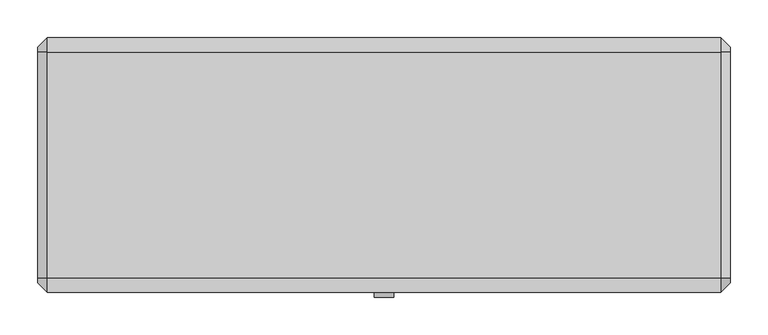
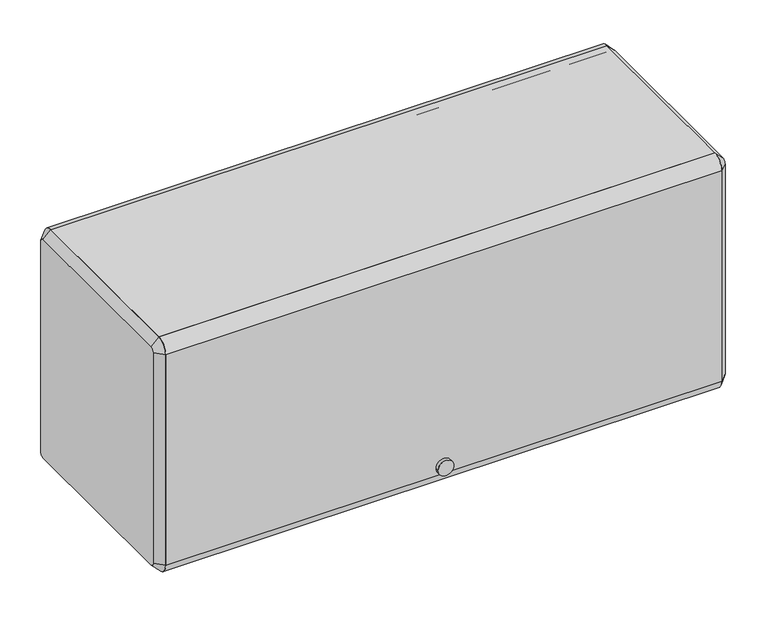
"""IFC4 building model written with IfcOpenShell, lengths in millimetres: furniture geometry."""

from ifc_helpers import new_model, si_unit, point, frame, frame_2d, origin, place, context, project, spatial, polyline, circle_curve, trimmed, segment, composite_curve, outline, extrude, source, transform, mapped, element, save
from ifc_brep_helpers import plane_surface, revolved_surface, advanced_brep


def furniture_bd327418(model_context):
    return source(origin(), model_context, "Body", "SolidModel", [
        extrude(outline(composite_curve([segment(polyline([(-136.525, 1689.1), (-136.525, 1701.8), (161.925, 1701.8)]), True, "CONTINUOUS"), segment(trimmed(circle_curve(frame_2d((161.925, 1682.75)), 19.05), [point((161.925, 1701.8))], [point((180.975, 1682.75))], False, "CARTESIAN"), True, "CONTINUOUS"), segment(polyline([(180.975, 1682.75), (168.275, 1682.75)]), True, "CONTINUOUS"), segment(trimmed(circle_curve(frame_2d((161.925, 1682.75)), 6.35), [point((168.275, 1682.75))], [point((161.925, 1689.1))], True, "CARTESIAN"), True, "CONTINUOUS"), segment(polyline([(161.925, 1689.1), (-136.525, 1689.1)]), True, "CONTINUOUS")], self_intersect=False)), frame((-444.5, 0.0, 0.0), z_axis=(1.0, 0.0, 0.0), x_axis=(0.0, 1.0, 0.0)), (0.0, 0.0, 1.0), 889.0),
        extrude(outline(composite_curve([segment(trimmed(circle_curve(frame_2d((-136.525, 1682.75)), 19.05), [point((-155.575, 1682.75))], [point((-136.525, 1701.8))], False, "CARTESIAN"), True, "CONTINUOUS"), segment(polyline([(-136.525, 1701.8), (-136.525, 1689.1)]), True, "CONTINUOUS"), segment(trimmed(circle_curve(frame_2d((-136.525, 1682.75)), 6.35), [point((-136.525, 1689.1))], [point((-142.875, 1682.75))], True, "CARTESIAN"), True, "CONTINUOUS"), segment(polyline([(-142.875, 1682.75), (-142.875, 1327.15)]), True, "CONTINUOUS"), segment(trimmed(circle_curve(frame_2d((-136.525, 1327.15)), 6.35), [point((-142.875, 1327.15))], [point((-136.525, 1320.8))], True, "CARTESIAN"), True, "CONTINUOUS"), segment(polyline([(-136.525, 1320.8), (-136.525, 1308.1)]), True, "CONTINUOUS"), segment(trimmed(circle_curve(frame_2d((-136.525, 1327.15)), 19.05), [point((-136.525, 1308.1))], [point((-155.575, 1327.15))], False, "CARTESIAN"), True, "CONTINUOUS"), segment(polyline([(-155.575, 1327.15), (-155.575, 1682.75)]), True, "CONTINUOUS")], self_intersect=False)), frame((-444.5, 0.0, 0.0), z_axis=(1.0, 0.0, 0.0), x_axis=(0.0, 1.0, 0.0)), (0.0, 0.0, 1.0), 889.0),
        extrude(outline(composite_curve([segment(trimmed(circle_curve(frame_2d((1339.8118906, 0.0201199)), 12.7253951), [point((1339.8118906, 12.745515))], [point((1339.8118906, -12.7052752))], False, "CARTESIAN"), True, "CONTINUOUS"), segment(trimmed(circle_curve(frame_2d((1339.8118906, 0.0201199)), 12.7253951), [point((1339.8118906, -12.7052752))], [point((1339.8118906, 12.745515))], False, "CARTESIAN"), True, "CONTINUOUS")], self_intersect=False)), frame((0.0, -161.925, 0.0), z_axis=(0.0, 1.0, 0.0), x_axis=(0.0, 0.0, 1.0)), (0.0, 0.0, 1.0), 6.35),
        extrude(outline(polyline([(-136.525, 1346.2), (161.925, 1346.2), (161.925, 1384.3), (174.625, 1384.3), (174.625, 1381.125), (165.1, 1381.125), (165.1, 1343.025), (-133.35, 1343.025), (-133.35, 1323.975), (-136.525, 1323.975), (-136.525, 1346.2)])), frame((-444.5, 0.0, 0.0), z_axis=(1.0, 0.0, 0.0), x_axis=(0.0, 1.0, 0.0)), (0.0, 0.0, 1.0), 889.0),
        advanced_brep(
        [(457.2, 161.925, 1689.1), (457.2, -136.525, 1689.1), (457.2, -142.875, 1682.75), (457.2, -142.875, 1327.15), (457.2, -136.525, 1320.8), (457.2, 161.925, 1320.8), (457.2, 168.275, 1327.15), (457.2, 168.275, 1682.75), (444.5, 161.925, 1701.8), (444.5, 180.975, 1682.75), (444.5, 180.975, 1327.15), (444.5, 161.925, 1308.1), (444.5, -136.525, 1308.1), (444.5, -155.575, 1327.15), (444.5, -155.575, 1682.75), (444.5, -136.525, 1701.8)],
        [
            (0, 1),
            (1, 2, circle_curve(frame((457.2, -136.525, 1682.75), z_axis=(1.0, 6.4908078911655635e-12, -6.5867311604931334e-12), x_axis=(6.586694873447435e-12, 0.0, 1.0)), 6.35)),
            (2, 3),
            (3, 4, circle_curve(frame((457.2, -136.525, 1327.15), z_axis=(1.0, 3.3733016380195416e-12, 3.3892888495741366e-12), x_axis=(3.3733436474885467e-12, -1.0, 0.0)), 6.35)),
            (4, 5),
            (5, 6, circle_curve(frame((457.2, 161.925, 1327.15), z_axis=(1.0, 3.37863070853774e-12, -3.3892888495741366e-12), x_axis=(-3.3893585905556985e-12, 0.0, -1.0)), 6.35)),
            (6, 7),
            (7, 0, circle_curve(frame((457.2, 161.925, 1682.75), z_axis=(1.0, 6.4828142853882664e-12, 6.394884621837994e-12), x_axis=(-6.482754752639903e-12, 1.0, 0.0)), 6.35)),
            (8, 9, circle_curve(frame((444.5, 161.925, 1682.75), z_axis=(-1.0, -6.4828142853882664e-12, -6.394884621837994e-12), x_axis=(-6.482754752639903e-12, 1.0, 0.0)), 19.05)),
            (9, 10),
            (10, 11, circle_curve(frame((444.5, 161.925, 1327.15), z_axis=(-1.0, -3.37863070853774e-12, 3.3892888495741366e-12), x_axis=(-3.3893585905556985e-12, 0.0, -1.0)), 19.05)),
            (11, 12),
            (12, 13, circle_curve(frame((444.5, -136.525, 1327.15), z_axis=(-1.0, -3.3733016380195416e-12, -3.3892888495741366e-12), x_axis=(3.3733436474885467e-12, -1.0, 0.0)), 19.05)),
            (13, 14),
            (14, 15, circle_curve(frame((444.5, -136.525, 1682.75), z_axis=(-1.0, -6.4908078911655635e-12, 6.5867311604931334e-12), x_axis=(6.586694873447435e-12, 0.0, 1.0)), 19.05)),
            (15, 8),
            (15, 1),
            (0, 8),
            (14, 2),
            (13, 3),
            (12, 4),
            (11, 5),
            (10, 6),
            (9, 7),
        ],
        [
            plane_surface(frame((457.2, 12.7, 1504.95), z_axis=(1.0, 0.0, 0.0), x_axis=(0.0, -1.0, 0.0))),
            plane_surface(frame((444.5, 12.7, 1504.95), z_axis=(-1.0, 0.0, 0.0), x_axis=(0.0, -1.0, 0.0))),
            plane_surface(frame((444.5, 12.7, 1701.8), z_axis=(0.7071067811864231, 0.0, 0.7071067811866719), x_axis=(0.0, -1.0, 0.0))),
            revolved_surface(polyline([(457.2000000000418, -136.525, 1689.099999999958), (444.5, -136.525, 1701.8)]), (463.55, -136.525, 1682.75), (-1.0, -6.4908078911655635e-12, 6.5867311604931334e-12)),
            plane_surface(frame((444.5, -155.575, 1504.95), z_axis=(0.7071067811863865, -0.7071067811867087, 0.0), x_axis=(0.0, 0.0, -1.0))),
            revolved_surface(polyline([(457.2000000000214, -142.8749999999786, 1327.15), (444.4999999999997, -155.5750000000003, 1327.15)]), (463.55, -136.525, 1327.15), (-1.0, -3.3733016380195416e-12, -3.3892888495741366e-12)),
            plane_surface(frame((444.5, 12.7, 1308.1), z_axis=(0.7071067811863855, 0.0, -0.7071067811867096), x_axis=(0.0, 1.0, 0.0))),
            revolved_surface(polyline([(457.2, 161.925, 1320.8), (444.4999999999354, 161.925, 1308.0999999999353)]), (463.55, 161.925, 1327.15), (-1.0, -3.37863070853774e-12, 3.3892888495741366e-12)),
            plane_surface(frame((444.5, 180.975, 1504.95), z_axis=(0.7071067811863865, 0.7071067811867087, 0.0), x_axis=(0.0, 0.0, 1.0))),
            revolved_surface(polyline([(457.2, 168.27500000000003, 1682.75), (444.4999999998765, 180.9750000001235, 1682.75)]), (463.55, 161.925, 1682.75), (-1.0, -6.4828142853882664e-12, -6.394884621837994e-12)),
        ],
        [
            (0, [[1, 2, 3, 4, 5, 6, 7, 8]]),
            (1, [[9, 10, 11, 12, 13, 14, 15, 16]]),
            (2, [[-16, 17, -1, 18]]),
            (3, [[-15, 19, -2, -17]]),
            (4, [[-14, 20, -3, -19]]),
            (5, [[-13, 21, -4, -20]]),
            (6, [[-12, 22, -5, -21]]),
            (7, [[-11, 23, -6, -22]]),
            (8, [[-10, 24, -7, -23]]),
            (9, [[-9, -18, -8, -24]]),
        ],
    ),
        advanced_brep(
        [(-457.2, -136.525, 1689.1), (-457.2, 161.925, 1689.1), (-457.2, 168.275, 1682.75), (-457.2, 168.275, 1327.15), (-457.2, 161.925, 1320.8), (-457.2, -136.525, 1320.8), (-457.2, -142.875, 1327.15), (-457.2, -142.875, 1682.75), (-444.5, -136.525, 1701.8), (-444.5, -155.575, 1682.75), (-444.5, -155.575, 1327.15), (-444.5, -136.525, 1308.1), (-444.5, 161.925, 1308.1), (-444.5, 180.975, 1327.15), (-444.5, 180.975, 1682.75), (-444.5, 161.925, 1701.8)],
        [
            (0, 1),
            (1, 2, circle_curve(frame((-457.2, 161.925, 1682.75), z_axis=(-1.0, 3.3653080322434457e-12, 3.4319214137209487e-12), x_axis=(3.4319080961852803e-12, 0.0, 1.0)), 6.35)),
            (2, 3),
            (3, 4, circle_curve(frame((-457.2, 161.925, 1327.15), z_axis=(-1.0, 0.0, 0.0), x_axis=(0.0, 1.0, 0.0)), 6.35)),
            (4, 5),
            (5, 6, circle_curve(frame((-457.2, -136.525, 1327.15), z_axis=(-1.0, 0.0, 0.0), x_axis=(0.0, 0.0, -1.0)), 6.35)),
            (6, 7),
            (7, 0, circle_curve(frame((-457.2, -136.525, 1682.75), z_axis=(-1.0, 3.3812952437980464e-12, -3.304023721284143e-12), x_axis=(-3.381351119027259e-12, -1.0, 0.0)), 6.35)),
            (8, 9, circle_curve(frame((-444.5, -136.525, 1682.75), z_axis=(1.0, -3.3812952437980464e-12, 3.304023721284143e-12), x_axis=(-3.381351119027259e-12, -1.0, 0.0)), 19.05)),
            (9, 10),
            (10, 11, circle_curve(frame((-444.5, -136.525, 1327.15), z_axis=(1.0, 0.0, 0.0), x_axis=(0.0, 0.0, -1.0)), 19.05)),
            (11, 12),
            (12, 13, circle_curve(frame((-444.5, 161.925, 1327.15), z_axis=(1.0, 0.0, 0.0), x_axis=(0.0, 1.0, 0.0)), 19.05)),
            (13, 14),
            (14, 15, circle_curve(frame((-444.5, 161.925, 1682.75), z_axis=(1.0, -3.3653080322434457e-12, -3.4319214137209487e-12), x_axis=(3.4319080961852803e-12, 0.0, 1.0)), 19.05)),
            (15, 8),
            (15, 1),
            (0, 8),
            (14, 2),
            (13, 3),
            (12, 4),
            (11, 5),
            (10, 6),
            (9, 7),
        ],
        [
            plane_surface(frame((-457.2, 12.7, 1504.95), z_axis=(-1.0, 0.0, 0.0), x_axis=(0.0, -1.0, 0.0))),
            plane_surface(frame((-444.5, 12.7, 1504.95), z_axis=(1.0, 0.0, 0.0), x_axis=(0.0, -1.0, 0.0))),
            plane_surface(frame((-444.5, 12.7, 1701.8), z_axis=(-0.7071067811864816, 0.0, 0.7071067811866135), x_axis=(0.0, 1.0, 0.0))),
            revolved_surface(polyline([(-457.2, 161.925, 1689.1), (-444.49999999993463, 161.925, 1701.8000000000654)]), (-463.55, 161.925, 1682.75), (1.0, -3.3653080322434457e-12, -3.4319214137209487e-12)),
            plane_surface(frame((-444.5, 180.975, 1504.95), z_axis=(-0.7071067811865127, 0.7071067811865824, 0.0), x_axis=(0.0, 0.0, -1.0))),
            revolved_surface(polyline([(-457.2, 168.27500000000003, 1327.15), (-444.5, 180.975, 1327.15)]), (-463.55, 161.925, 1327.15), (1.0, 0.0, 0.0)),
            plane_surface(frame((-444.5, 12.7, 1308.1), z_axis=(-0.7071067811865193, 0.0, -0.7071067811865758), x_axis=(0.0, -1.0, 0.0))),
            revolved_surface(polyline([(-457.2, -136.525, 1320.8), (-444.5, -136.525, 1308.1)]), (-463.55, -136.525, 1327.15), (1.0, 0.0, 0.0)),
            plane_surface(frame((-444.5, -155.575, 1504.95), z_axis=(-0.7071067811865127, -0.7071067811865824, 0.0), x_axis=(0.0, 0.0, 1.0))),
            revolved_surface(polyline([(-457.2000000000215, -142.87499999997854, 1682.75), (-444.5, -155.575, 1682.75)]), (-463.55, -136.525, 1682.75), (1.0, -3.3812952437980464e-12, 3.304023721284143e-12)),
        ],
        [
            (0, [[1, 2, 3, 4, 5, 6, 7, 8]]),
            (1, [[9, 10, 11, 12, 13, 14, 15, 16]]),
            (2, [[-16, 17, -1, 18]]),
            (3, [[-15, 19, -2, -17]]),
            (4, [[-14, 20, -3, -19]]),
            (5, [[-13, 21, -4, -20]]),
            (6, [[-12, 22, -5, -21]]),
            (7, [[-11, 23, -6, -22]]),
            (8, [[-10, 24, -7, -23]]),
            (9, [[-9, -18, -8, -24]]),
        ],
    ),
    ])


if __name__ == "__main__":
    model = new_model("IFC4")
    model_context = context("Model", 3, world=origin())
    ifc_project = project(units=[si_unit("LENGTHUNIT", "METRE", prefix="MILLI")], contexts=[model_context])
    site = spatial("IfcSite", under=ifc_project)
    building = spatial("IfcBuilding", under=site)
    placement = place(None, origin())
    furniture_shape = furniture_bd327418(model_context)
    element("IfcFurniture", 1, ObjectType="HermanMiller_ActionOffice_A3352_B-StyleFlipperDoorUnit : 15 1/2\"H x 13\"D x 36\"W", at=placement, inside=building, context=model_context, shape_type="MappedRepresentation", body=[
        mapped(furniture_shape, transform((0.0, 0.0, 0.0), x_axis=(1.0, 0.0, 0.0), y_axis=(0.0, 1.0, 0.0), z_axis=(0.0, 0.0, 1.0))),
    ])
    save(model, "model.ifc")
